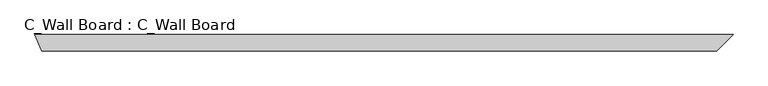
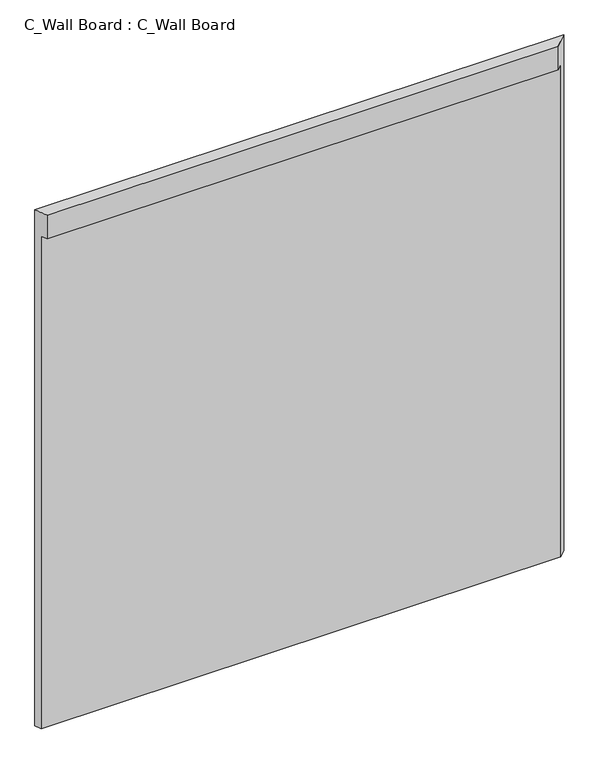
"""IFC4 building model written with IfcOpenShell, lengths in millimetres: proxy geometry, C_Wall Board : C_Wall Board."""

from ifc_helpers import new_model, si_unit, origin, place, context, project, spatial, faceted_brep, source, transform, mapped, element, save


def c_wall_board_c_wall_board_af5b2832(model_context):
    return source(origin(), model_context, "Body", "Brep", [
        faceted_brep([(1082.9553898, 0.0, 1117.6), (1082.9553898, 0.0, 0.0), (0.0, 0.0, 0.0), (0.0, 0.0, 1117.6), (1057.5553898, -25.4, 1117.6), (10.5210245, -25.4, 1117.6), (1057.5553898, -25.4, 1066.8), (1070.2553898, -12.7, 1066.8), (1070.2553898, -12.7, 0.0), (5.2605122, -12.7, 0.0), (5.2605122, -12.7, 1066.8), (10.5210245, -25.4, 1066.8)], [[[0, 1, 2, 3]], [[4, 0, 3, 5]], [[1, 0, 4, 6, 7, 8]], [[3, 2, 9, 10, 11, 5]], [[8, 7, 10, 9]], [[1, 8, 9, 2]], [[6, 4, 5, 11]], [[7, 6, 11, 10]]]),
    ])


if __name__ == "__main__":
    model = new_model("IFC4")
    model_context = context("Model", 3, world=origin())
    ifc_project = project(units=[si_unit("LENGTHUNIT", "METRE", prefix="MILLI")], contexts=[model_context])
    site = spatial("IfcSite", under=ifc_project)
    building = spatial("IfcBuilding", under=site)
    placement = place(None, origin())
    c_wall_board_c_wall_board_shape = c_wall_board_c_wall_board_af5b2832(model_context)
    element("IfcBuildingElementProxy", 1, Name="C_Wall Board : C_Wall Board", ObjectType="C_Wall Board : C_Wall Board", at=placement, inside=building, context=model_context, shape_type="MappedRepresentation", body=[
        mapped(c_wall_board_c_wall_board_shape, transform((0.0, 0.0, 0.0), x_axis=(1.0, 0.0, 0.0), y_axis=(0.0, 1.0, 0.0), z_axis=(0.0, 0.0, 1.0))),
    ])
    save(model, "model.ifc")
